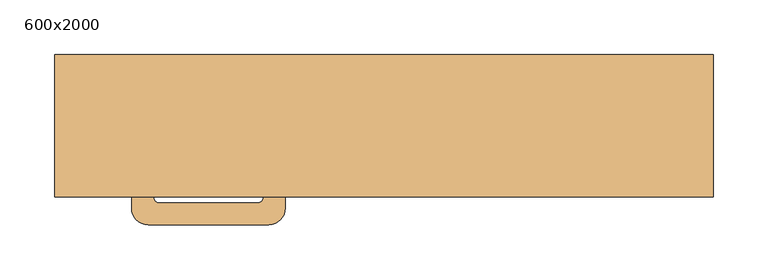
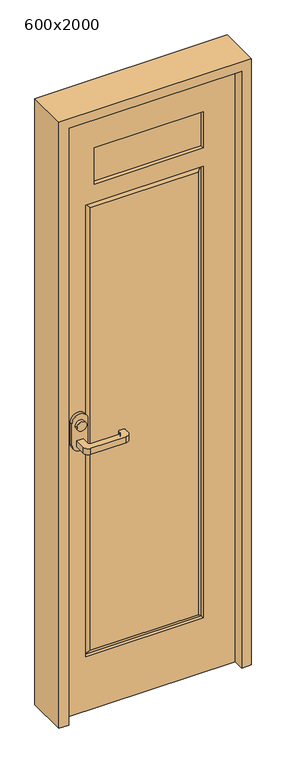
"""IFC4 building model written with IfcOpenShell, lengths in millimetres: door geometry, 片開き戸CL2058 : 600x2000."""

from ifc_helpers import new_model, si_unit, point, frame, frame_2d, origin, place, context, project, spatial, polyline, circle_curve, trimmed, segment, composite_curve, outline, extrude, faceted_brep, source, transform, mapped, element, save


def door_600x2000_8ea70a65(model_context):
    return source(origin(), model_context, "Body", "SolidModel", [
        extrude(outline(composite_curve([segment(trimmed(circle_curve(frame_2d((-205.0, -65.0)), 5.0), [point((-210.0, -65.0))], [point((-205.0, -70.0))], True, "CARTESIAN"), True, "CONTINUOUS"), segment(polyline([(-205.0, -70.0), (-115.0, -70.0)]), True, "CONTINUOUS"), segment(trimmed(circle_curve(frame_2d((-115.0, -65.0)), 5.0), [point((-115.0, -70.0))], [point((-110.0, -65.0))], True, "CARTESIAN"), True, "CONTINUOUS"), segment(polyline([(-110.0, -65.0), (-110.0, -60.0)]), True, "CONTINUOUS"), segment(trimmed(circle_curve(frame_2d((-105.0, -60.0)), 5.0), [point((-110.0, -60.0))], [point((-105.0, -55.0))], False, "CARTESIAN"), True, "CONTINUOUS"), segment(polyline([(-105.0, -55.0), (-95.0, -55.0)]), True, "CONTINUOUS"), segment(trimmed(circle_curve(frame_2d((-95.0, -60.0)), 5.0), [point((-95.0, -55.0))], [point((-90.0, -60.0))], False, "CARTESIAN"), True, "CONTINUOUS"), segment(polyline([(-90.0, -60.0), (-90.0, -75.0)]), True, "CONTINUOUS"), segment(trimmed(circle_curve(frame_2d((-105.0, -75.0)), 15.0), [point((-90.0, -75.0))], [point((-105.0, -90.0))], False, "CARTESIAN"), True, "CONTINUOUS"), segment(polyline([(-105.0, -90.0), (-215.0, -90.0)]), True, "CONTINUOUS"), segment(trimmed(circle_curve(frame_2d((-215.0, -75.0)), 15.0), [point((-215.0, -90.0))], [point((-230.0, -75.0))], False, "CARTESIAN"), True, "CONTINUOUS"), segment(polyline([(-230.0, -75.0), (-230.0, -40.0), (-210.0, -40.0), (-210.0, -65.0)]), True, "CONTINUOUS")], self_intersect=False)), frame((0.0, 0.0, 890.0), z_axis=(0.0, 0.0, 1.0), x_axis=(1.0, 0.0, 0.0)), (0.0, 0.0, 1.0), 20.0),
        extrude(outline(composite_curve([segment(polyline([(-210.0, 35.0), (-210.0, 10.0), (-230.0, 10.0), (-230.0, 45.0)]), True, "CONTINUOUS"), segment(trimmed(circle_curve(frame_2d((-215.0, 45.0)), 15.0), [point((-230.0, 45.0))], [point((-215.0, 60.0))], False, "CARTESIAN"), True, "CONTINUOUS"), segment(polyline([(-215.0, 60.0), (-105.0, 60.0)]), True, "CONTINUOUS"), segment(trimmed(circle_curve(frame_2d((-105.0, 45.0)), 15.0), [point((-105.0, 60.0))], [point((-90.0, 45.0))], False, "CARTESIAN"), True, "CONTINUOUS"), segment(polyline([(-90.0, 45.0), (-90.0, 30.0)]), True, "CONTINUOUS"), segment(trimmed(circle_curve(frame_2d((-95.0, 30.0)), 5.0), [point((-90.0, 30.0))], [point((-95.0, 25.0))], False, "CARTESIAN"), True, "CONTINUOUS"), segment(polyline([(-95.0, 25.0), (-105.0, 25.0)]), True, "CONTINUOUS"), segment(trimmed(circle_curve(frame_2d((-105.0, 30.0)), 5.0), [point((-105.0, 25.0))], [point((-110.0, 30.0))], False, "CARTESIAN"), True, "CONTINUOUS"), segment(polyline([(-110.0, 30.0), (-110.0, 35.0)]), True, "CONTINUOUS"), segment(trimmed(circle_curve(frame_2d((-115.0, 35.0)), 5.0), [point((-110.0, 35.0))], [point((-115.0, 40.0))], True, "CARTESIAN"), True, "CONTINUOUS"), segment(polyline([(-115.0, 40.0), (-205.0, 40.0)]), True, "CONTINUOUS"), segment(trimmed(circle_curve(frame_2d((-205.0, 35.0)), 5.0), [point((-205.0, 40.0))], [point((-210.0, 35.0))], True, "CARTESIAN"), True, "CONTINUOUS")], self_intersect=False)), frame((0.0, 0.0, 890.0), z_axis=(0.0, 0.0, 1.0), x_axis=(1.0, 0.0, 0.0)), (0.0, 0.0, 1.0), 20.0),
        extrude(outline(composite_curve([segment(trimmed(circle_curve(frame_2d((960.0, -220.0)), 15.0), [point((960.0, -205.0))], [point((960.0, -235.0))], False, "CARTESIAN"), True, "CONTINUOUS"), segment(trimmed(circle_curve(frame_2d((960.0, -220.0)), 15.0), [point((960.0, -235.0))], [point((960.0, -205.0))], False, "CARTESIAN"), True, "CONTINUOUS")], self_intersect=False)), frame((0.0, 10.0, 0.0), z_axis=(0.0, 1.0, 0.0), x_axis=(0.0, 0.0, 1.0)), (0.0, 0.0, 1.0), 10.0),
        extrude(outline(composite_curve([segment(trimmed(circle_curve(frame_2d((970.0, -220.0)), 25.0), [point((970.0, -195.0))], [point((970.0, -245.0))], False, "CARTESIAN"), True, "CONTINUOUS"), segment(polyline([(970.0, -245.0), (900.0, -245.0)]), True, "CONTINUOUS"), segment(trimmed(circle_curve(frame_2d((900.0, -220.0)), 25.0), [point((900.0, -245.0))], [point((900.0, -195.0))], False, "CARTESIAN"), True, "CONTINUOUS"), segment(polyline([(900.0, -195.0), (970.0, -195.0)]), True, "CONTINUOUS")], self_intersect=False)), frame((0.0, 0.0, 0.0), z_axis=(0.0, 1.0, 0.0), x_axis=(0.0, 0.0, 1.0)), (0.0, 0.0, 1.0), 10.0),
        extrude(outline(composite_curve([segment(trimmed(circle_curve(frame_2d((960.0, -220.0)), 15.0), [point((960.0, -205.0))], [point((960.0, -235.0))], False, "CARTESIAN"), True, "CONTINUOUS"), segment(trimmed(circle_curve(frame_2d((960.0, -220.0)), 15.0), [point((960.0, -235.0))], [point((960.0, -205.0))], False, "CARTESIAN"), True, "CONTINUOUS")], self_intersect=False)), frame((0.0, -50.0, 0.0), z_axis=(0.0, 1.0, 0.0), x_axis=(0.0, 0.0, 1.0)), (0.0, 0.0, 1.0), 10.0),
        extrude(outline(composite_curve([segment(trimmed(circle_curve(frame_2d((970.0, -220.0)), 25.0), [point((970.0, -195.0))], [point((970.0, -245.0))], False, "CARTESIAN"), True, "CONTINUOUS"), segment(polyline([(970.0, -245.0), (900.0, -245.0)]), True, "CONTINUOUS"), segment(trimmed(circle_curve(frame_2d((900.0, -220.0)), 25.0), [point((900.0, -245.0))], [point((900.0, -195.0))], False, "CARTESIAN"), True, "CONTINUOUS"), segment(polyline([(900.0, -195.0), (970.0, -195.0)]), True, "CONTINUOUS")], self_intersect=False)), frame((0.0, -40.0, 0.0), z_axis=(0.0, 1.0, 0.0), x_axis=(0.0, 0.0, 1.0)), (0.0, 0.0, 1.0), 10.0),
        extrude(outline(polyline([(170.0, -12.5), (170.0, -17.5), (-170.0, -17.5), (-170.0, -12.5), (170.0, -12.5)])), frame((0.0, 0.0, 1730.0), z_axis=(0.0, 0.0, 1.0), x_axis=(1.0, 0.0, 0.0)), (0.0, 0.0, 1.0), 120.0),
        extrude(outline(polyline([(155.0, 0.0), (155.0, -30.0), (-181.5, -30.0), (-181.5, 0.0), (155.0, 0.0)])), frame((0.0, 0.0, 195.0), z_axis=(0.0, 0.0, 1.0), x_axis=(1.0, 0.0, 0.0)), (0.0, 0.0, 1.0), 1460.0),
        faceted_brep([(-181.5, 0.0, 1655.0), (-181.5, 0.0, 195.0), (-196.5, -10.0, 180.0), (-196.5, -10.0, 1670.0), (-181.5, -30.0, 1655.0), (-181.5, -30.0, 195.0), (-196.5, -20.0, 1670.0), (-196.5, -20.0, 180.0), (155.0, 0.0, 195.0), (170.0, -10.0, 180.0), (155.0, -30.0, 195.0), (170.0, -20.0, 180.0), (155.0, 0.0, 1655.0), (170.0, -10.0, 1670.0), (155.0, -30.0, 1655.0), (170.0, -20.0, 1670.0)], [[[0, 1, 2, 3]], [[4, 5, 1, 0]], [[6, 7, 5, 4]], [[3, 2, 7, 6]], [[1, 8, 9, 2]], [[5, 10, 8, 1]], [[7, 11, 10, 5]], [[2, 9, 11, 7]], [[8, 12, 13, 9]], [[10, 14, 12, 8]], [[11, 15, 14, 10]], [[9, 13, 15, 11]], [[12, 0, 3, 13]], [[14, 4, 0, 12]], [[15, 6, 4, 14]], [[13, 3, 6, 15]]]),
        extrude(outline(polyline([(1970.0, 270.0), (1970.0, -270.0), (0.0, -270.0), (0.0, 270.0), (1970.0, 270.0)]), holes=[polyline([(180.0, 170.0), (180.0, -196.5), (1670.0, -196.5), (1670.0, 170.0), (180.0, 170.0)]), polyline([(1730.0, -170.0), (1850.0, -170.0), (1850.0, 170.0), (1730.0, 170.0), (1730.0, -170.0)])]), frame((0.0, -30.0, 0.0), z_axis=(0.0, 1.0, 0.0), x_axis=(0.0, 0.0, 1.0)), (0.0, 0.0, 1.0), 30.0),
        extrude(outline(polyline([(0.0, 300.0), (2000.0, 300.0), (2000.0, -300.0), (0.0, -300.0), (0.0, -270.0), (1970.0, -270.0), (1970.0, 270.0), (0.0, 270.0), (0.0, 300.0)])), frame((0.0, -65.0, 0.0), z_axis=(0.0, 1.0, 0.0), x_axis=(0.0, 0.0, 1.0)), (0.0, 0.0, 1.0), 130.0),
    ])


if __name__ == "__main__":
    model = new_model("IFC4")
    model_context = context("Model", 3, world=origin())
    ifc_project = project(units=[si_unit("LENGTHUNIT", "METRE", prefix="MILLI")], contexts=[model_context])
    site = spatial("IfcSite", under=ifc_project)
    building = spatial("IfcBuilding", under=site)
    placement = place(None, origin())
    door_600x2000_shape = door_600x2000_8ea70a65(model_context)
    element("IfcDoor", 1, ObjectType="片開き戸CL2058 : 600x2000", at=placement, inside=building, context=model_context, shape_type="MappedRepresentation", body=[
        mapped(door_600x2000_shape, transform((0.0, 0.0, 0.0), x_axis=(1.0, 0.0, 0.0), y_axis=(0.0, 1.0, 0.0), z_axis=(0.0, 0.0, 1.0))),
    ])
    save(model, "model.ifc")
